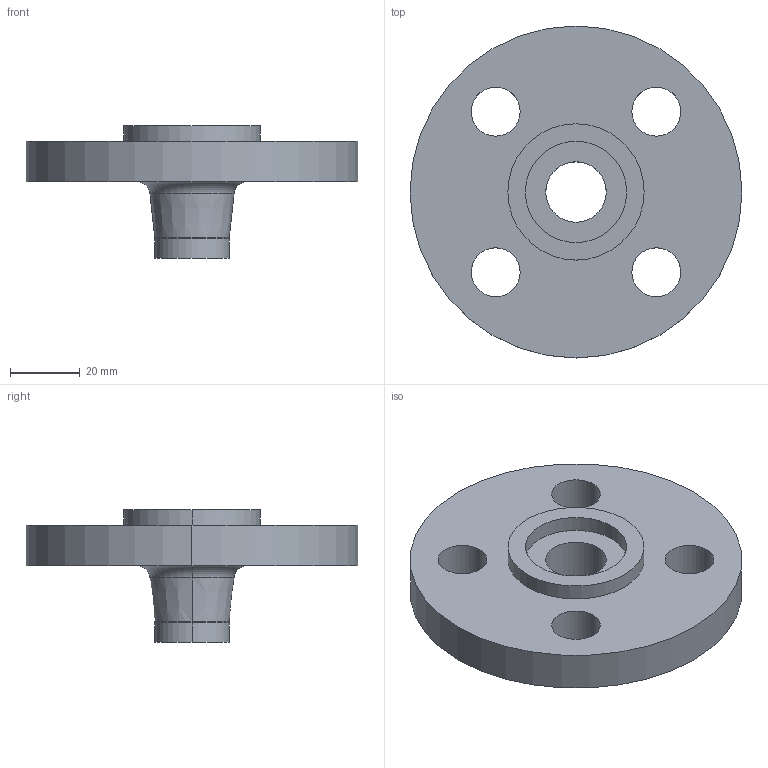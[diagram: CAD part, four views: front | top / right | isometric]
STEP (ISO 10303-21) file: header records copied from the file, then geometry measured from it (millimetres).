
FILE_DESCRIPTION (( 'STEP AP214' ), '1' );
FILE_NAME ('PN40 DN15 Type 11 - Type C Face.STEP', '2018-12-29T15:04:08', ( '' ), ( '' ), 'SwSTEP 2.0', 'SolidWorks 2019', '' );
FILE_SCHEMA (( 'AUTOMOTIVE_DESIGN' ));
Length unit declared in the file: millimetre
Products named in the file (1): PN40 DN15 Type 11 - Type C Face
Bounding box: 95 x 95 x 38 mm (x, y, z)
Volume: 78028.2 mm3; surface area: 22056 mm2
Topology: 1 solids, 1 shells, 29 faces, 66 edges, 42 vertices
Faces by surface type: cylinder 18, plane 5, torus 4, cone 2
Entity records: 892 total; most frequent: DIRECTION 172, CARTESIAN_POINT 138, ORIENTED_EDGE 132, AXIS2_PLACEMENT_3D 76, EDGE_CURVE 66, CIRCLE 46, VERTEX_POINT 42, EDGE_LOOP 42
